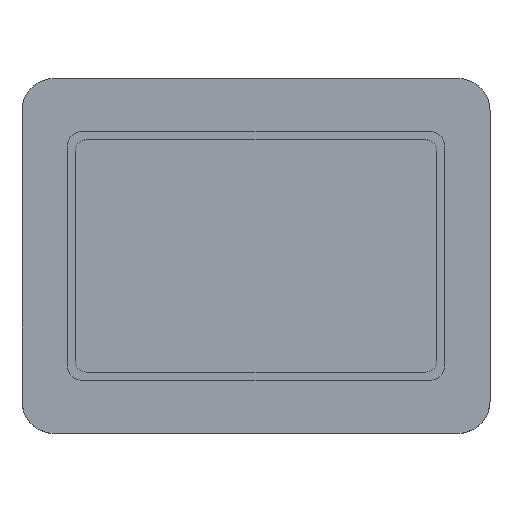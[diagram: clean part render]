
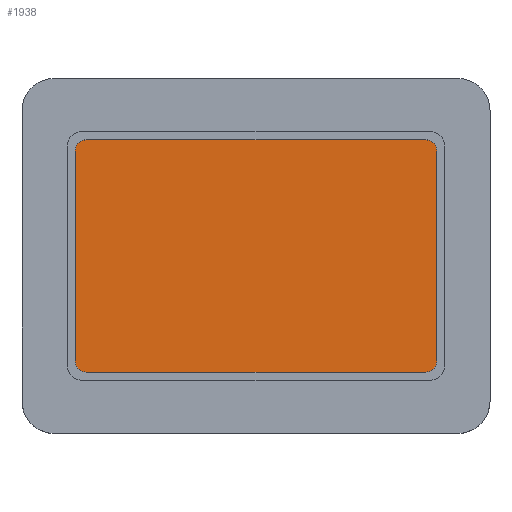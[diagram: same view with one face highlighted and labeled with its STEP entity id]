
A CAD part, top view. The second image highlights one B-rep face of the part: STEP entity #1938.
In plain terms, the highlighted planar face has unit normal (0, 0, 1).
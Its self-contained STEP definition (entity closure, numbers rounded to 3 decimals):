
#1331 = PLANE('',#1332);
#1332 = AXIS2_PLACEMENT_3D('',#1333,#1334,#1335);
#1333 = CARTESIAN_POINT('',(-11.2,-7.2,28.7));
#1334 = DIRECTION('',(0.,1.,0.));
#1335 = DIRECTION('',(1.,0.,0.));
#1359 = CYLINDRICAL_SURFACE('',#1360,0.7);
#1360 = AXIS2_PLACEMENT_3D('',#1361,#1362,#1363);
#1361 = CARTESIAN_POINT('',(-10.5,-6.5,28.7));
#1362 = DIRECTION('',(0.,0.,1.));
#1363 = DIRECTION('',(0.,-1.,0.));
#1386 = PLANE('',#1387);
#1387 = AXIS2_PLACEMENT_3D('',#1388,#1389,#1390);
#1388 = CARTESIAN_POINT('',(-11.2,7.2,28.7));
#1389 = DIRECTION('',(1.,0.,-0.));
#1390 = DIRECTION('',(0.,-1.,0.));
#1414 = CYLINDRICAL_SURFACE('',#1415,0.7);
#1415 = AXIS2_PLACEMENT_3D('',#1416,#1417,#1418);
#1416 = CARTESIAN_POINT('',(-10.5,6.5,28.7));
#1417 = DIRECTION('',(0.,0.,1.));
#1418 = DIRECTION('',(-0.,1.,0.));
#1441 = PLANE('',#1442);
#1442 = AXIS2_PLACEMENT_3D('',#1443,#1444,#1445);
#1443 = CARTESIAN_POINT('',(11.2,7.2,28.7));
#1444 = DIRECTION('',(0.,-1.,0.));
#1445 = DIRECTION('',(-1.,0.,0.));
#1469 = CYLINDRICAL_SURFACE('',#1470,0.7);
#1470 = AXIS2_PLACEMENT_3D('',#1471,#1472,#1473);
#1471 = CARTESIAN_POINT('',(10.5,6.5,28.7));
#1472 = DIRECTION('',(0.,0.,1.));
#1473 = DIRECTION('',(1.,0.,-0.));
#1496 = PLANE('',#1497);
#1497 = AXIS2_PLACEMENT_3D('',#1498,#1499,#1500);
#1498 = CARTESIAN_POINT('',(11.2,-7.2,28.7));
#1499 = DIRECTION('',(-1.,0.,0.));
#1500 = DIRECTION('',(0.,1.,0.));
#1522 = CYLINDRICAL_SURFACE('',#1523,0.7);
#1523 = AXIS2_PLACEMENT_3D('',#1524,#1525,#1526);
#1524 = CARTESIAN_POINT('',(10.5,-6.5,28.7));
#1525 = DIRECTION('',(0.,0.,1.));
#1526 = DIRECTION('',(0.,-1.,0.));
#1537 = EDGE_CURVE('',#1538,#1540,#1542,.T.);
#1538 = VERTEX_POINT('',#1539);
#1539 = CARTESIAN_POINT('',(-10.5,-7.2,28.7));
#1540 = VERTEX_POINT('',#1541);
#1541 = CARTESIAN_POINT('',(10.5,-7.2,28.7));
#1542 = SURFACE_CURVE('',#1543,(#1547,#1554),.PCURVE_S1.);
#1543 = LINE('',#1544,#1545);
#1544 = CARTESIAN_POINT('',(-11.2,-7.2,28.7));
#1545 = VECTOR('',#1546,1.);
#1546 = DIRECTION('',(1.,0.,0.));
#1547 = PCURVE('',#1331,#1548);
#1548 = DEFINITIONAL_REPRESENTATION('',(#1549),#1553);
#1549 = LINE('',#1550,#1551);
#1550 = CARTESIAN_POINT('',(0.,0.));
#1551 = VECTOR('',#1552,1.);
#1552 = DIRECTION('',(1.,0.));
#1553 = ( GEOMETRIC_REPRESENTATION_CONTEXT(2) 
PARAMETRIC_REPRESENTATION_CONTEXT() REPRESENTATION_CONTEXT('2D SPACE',''
  ) );
#1554 = PCURVE('',#1555,#1560);
#1555 = PLANE('',#1556);
#1556 = AXIS2_PLACEMENT_3D('',#1557,#1558,#1559);
#1557 = CARTESIAN_POINT('',(0.,0.,28.7));
#1558 = DIRECTION('',(0.,0.,1.));
#1559 = DIRECTION('',(1.,0.,-0.));
#1560 = DEFINITIONAL_REPRESENTATION('',(#1561),#1565);
#1561 = LINE('',#1562,#1563);
#1562 = CARTESIAN_POINT('',(-11.2,-7.2));
#1563 = VECTOR('',#1564,1.);
#1564 = DIRECTION('',(1.,0.));
#1565 = ( GEOMETRIC_REPRESENTATION_CONTEXT(2) 
PARAMETRIC_REPRESENTATION_CONTEXT() REPRESENTATION_CONTEXT('2D SPACE',''
  ) );
#1614 = EDGE_CURVE('',#1540,#1615,#1617,.T.);
#1615 = VERTEX_POINT('',#1616);
#1616 = CARTESIAN_POINT('',(11.2,-6.5,28.7));
#1617 = SURFACE_CURVE('',#1618,(#1623,#1630),.PCURVE_S1.);
#1618 = CIRCLE('',#1619,0.7);
#1619 = AXIS2_PLACEMENT_3D('',#1620,#1621,#1622);
#1620 = CARTESIAN_POINT('',(10.5,-6.5,28.7));
#1621 = DIRECTION('',(0.,0.,1.));
#1622 = DIRECTION('',(0.,-1.,0.));
#1623 = PCURVE('',#1522,#1624);
#1624 = DEFINITIONAL_REPRESENTATION('',(#1625),#1629);
#1625 = LINE('',#1626,#1627);
#1626 = CARTESIAN_POINT('',(0.,0.));
#1627 = VECTOR('',#1628,1.);
#1628 = DIRECTION('',(1.,0.));
#1629 = ( GEOMETRIC_REPRESENTATION_CONTEXT(2) 
PARAMETRIC_REPRESENTATION_CONTEXT() REPRESENTATION_CONTEXT('2D SPACE',''
  ) );
#1630 = PCURVE('',#1555,#1631);
#1631 = DEFINITIONAL_REPRESENTATION('',(#1632),#1636);
#1632 = CIRCLE('',#1633,0.7);
#1633 = AXIS2_PLACEMENT_2D('',#1634,#1635);
#1634 = CARTESIAN_POINT('',(10.5,-6.5));
#1635 = DIRECTION('',(0.,-1.));
#1636 = ( GEOMETRIC_REPRESENTATION_CONTEXT(2) 
PARAMETRIC_REPRESENTATION_CONTEXT() REPRESENTATION_CONTEXT('2D SPACE',''
  ) );
#1663 = EDGE_CURVE('',#1615,#1664,#1666,.T.);
#1664 = VERTEX_POINT('',#1665);
#1665 = CARTESIAN_POINT('',(11.2,6.5,28.7));
#1666 = SURFACE_CURVE('',#1667,(#1671,#1678),.PCURVE_S1.);
#1667 = LINE('',#1668,#1669);
#1668 = CARTESIAN_POINT('',(11.2,-7.2,28.7));
#1669 = VECTOR('',#1670,1.);
#1670 = DIRECTION('',(0.,1.,0.));
#1671 = PCURVE('',#1496,#1672);
#1672 = DEFINITIONAL_REPRESENTATION('',(#1673),#1677);
#1673 = LINE('',#1674,#1675);
#1674 = CARTESIAN_POINT('',(0.,0.));
#1675 = VECTOR('',#1676,1.);
#1676 = DIRECTION('',(1.,0.));
#1677 = ( GEOMETRIC_REPRESENTATION_CONTEXT(2) 
PARAMETRIC_REPRESENTATION_CONTEXT() REPRESENTATION_CONTEXT('2D SPACE',''
  ) );
#1678 = PCURVE('',#1555,#1679);
#1679 = DEFINITIONAL_REPRESENTATION('',(#1680),#1684);
#1680 = LINE('',#1681,#1682);
#1681 = CARTESIAN_POINT('',(11.2,-7.2));
#1682 = VECTOR('',#1683,1.);
#1683 = DIRECTION('',(0.,1.));
#1684 = ( GEOMETRIC_REPRESENTATION_CONTEXT(2) 
PARAMETRIC_REPRESENTATION_CONTEXT() REPRESENTATION_CONTEXT('2D SPACE',''
  ) );
#1713 = EDGE_CURVE('',#1664,#1714,#1716,.T.);
#1714 = VERTEX_POINT('',#1715);
#1715 = CARTESIAN_POINT('',(10.5,7.2,28.7));
#1716 = SURFACE_CURVE('',#1717,(#1722,#1729),.PCURVE_S1.);
#1717 = CIRCLE('',#1718,0.7);
#1718 = AXIS2_PLACEMENT_3D('',#1719,#1720,#1721);
#1719 = CARTESIAN_POINT('',(10.5,6.5,28.7));
#1720 = DIRECTION('',(0.,0.,1.));
#1721 = DIRECTION('',(0.,-1.,0.));
#1722 = PCURVE('',#1469,#1723);
#1723 = DEFINITIONAL_REPRESENTATION('',(#1724),#1728);
#1724 = LINE('',#1725,#1726);
#1725 = CARTESIAN_POINT('',(-1.571,0.));
#1726 = VECTOR('',#1727,1.);
#1727 = DIRECTION('',(1.,0.));
#1728 = ( GEOMETRIC_REPRESENTATION_CONTEXT(2) 
PARAMETRIC_REPRESENTATION_CONTEXT() REPRESENTATION_CONTEXT('2D SPACE',''
  ) );
#1729 = PCURVE('',#1555,#1730);
#1730 = DEFINITIONAL_REPRESENTATION('',(#1731),#1735);
#1731 = CIRCLE('',#1732,0.7);
#1732 = AXIS2_PLACEMENT_2D('',#1733,#1734);
#1733 = CARTESIAN_POINT('',(10.5,6.5));
#1734 = DIRECTION('',(0.,-1.));
#1735 = ( GEOMETRIC_REPRESENTATION_CONTEXT(2) 
PARAMETRIC_REPRESENTATION_CONTEXT() REPRESENTATION_CONTEXT('2D SPACE',''
  ) );
#1762 = EDGE_CURVE('',#1714,#1763,#1765,.T.);
#1763 = VERTEX_POINT('',#1764);
#1764 = CARTESIAN_POINT('',(-10.5,7.2,28.7));
#1765 = SURFACE_CURVE('',#1766,(#1770,#1777),.PCURVE_S1.);
#1766 = LINE('',#1767,#1768);
#1767 = CARTESIAN_POINT('',(11.2,7.2,28.7));
#1768 = VECTOR('',#1769,1.);
#1769 = DIRECTION('',(-1.,0.,0.));
#1770 = PCURVE('',#1441,#1771);
#1771 = DEFINITIONAL_REPRESENTATION('',(#1772),#1776);
#1772 = LINE('',#1773,#1774);
#1773 = CARTESIAN_POINT('',(0.,-0.));
#1774 = VECTOR('',#1775,1.);
#1775 = DIRECTION('',(1.,0.));
#1776 = ( GEOMETRIC_REPRESENTATION_CONTEXT(2) 
PARAMETRIC_REPRESENTATION_CONTEXT() REPRESENTATION_CONTEXT('2D SPACE',''
  ) );
#1777 = PCURVE('',#1555,#1778);
#1778 = DEFINITIONAL_REPRESENTATION('',(#1779),#1783);
#1779 = LINE('',#1780,#1781);
#1780 = CARTESIAN_POINT('',(11.2,7.2));
#1781 = VECTOR('',#1782,1.);
#1782 = DIRECTION('',(-1.,0.));
#1783 = ( GEOMETRIC_REPRESENTATION_CONTEXT(2) 
PARAMETRIC_REPRESENTATION_CONTEXT() REPRESENTATION_CONTEXT('2D SPACE',''
  ) );
#1812 = EDGE_CURVE('',#1763,#1813,#1815,.T.);
#1813 = VERTEX_POINT('',#1814);
#1814 = CARTESIAN_POINT('',(-11.2,6.5,28.7));
#1815 = SURFACE_CURVE('',#1816,(#1821,#1828),.PCURVE_S1.);
#1816 = CIRCLE('',#1817,0.7);
#1817 = AXIS2_PLACEMENT_3D('',#1818,#1819,#1820);
#1818 = CARTESIAN_POINT('',(-10.5,6.5,28.7));
#1819 = DIRECTION('',(0.,0.,1.));
#1820 = DIRECTION('',(0.,-1.,0.));
#1821 = PCURVE('',#1414,#1822);
#1822 = DEFINITIONAL_REPRESENTATION('',(#1823),#1827);
#1823 = LINE('',#1824,#1825);
#1824 = CARTESIAN_POINT('',(-3.142,0.));
#1825 = VECTOR('',#1826,1.);
#1826 = DIRECTION('',(1.,0.));
#1827 = ( GEOMETRIC_REPRESENTATION_CONTEXT(2) 
PARAMETRIC_REPRESENTATION_CONTEXT() REPRESENTATION_CONTEXT('2D SPACE',''
  ) );
#1828 = PCURVE('',#1555,#1829);
#1829 = DEFINITIONAL_REPRESENTATION('',(#1830),#1834);
#1830 = CIRCLE('',#1831,0.7);
#1831 = AXIS2_PLACEMENT_2D('',#1832,#1833);
#1832 = CARTESIAN_POINT('',(-10.5,6.5));
#1833 = DIRECTION('',(0.,-1.));
#1834 = ( GEOMETRIC_REPRESENTATION_CONTEXT(2) 
PARAMETRIC_REPRESENTATION_CONTEXT() REPRESENTATION_CONTEXT('2D SPACE',''
  ) );
#1861 = EDGE_CURVE('',#1813,#1862,#1864,.T.);
#1862 = VERTEX_POINT('',#1863);
#1863 = CARTESIAN_POINT('',(-11.2,-6.5,28.7));
#1864 = SURFACE_CURVE('',#1865,(#1869,#1876),.PCURVE_S1.);
#1865 = LINE('',#1866,#1867);
#1866 = CARTESIAN_POINT('',(-11.2,7.2,28.7));
#1867 = VECTOR('',#1868,1.);
#1868 = DIRECTION('',(0.,-1.,0.));
#1869 = PCURVE('',#1386,#1870);
#1870 = DEFINITIONAL_REPRESENTATION('',(#1871),#1875);
#1871 = LINE('',#1872,#1873);
#1872 = CARTESIAN_POINT('',(0.,0.));
#1873 = VECTOR('',#1874,1.);
#1874 = DIRECTION('',(1.,0.));
#1875 = ( GEOMETRIC_REPRESENTATION_CONTEXT(2) 
PARAMETRIC_REPRESENTATION_CONTEXT() REPRESENTATION_CONTEXT('2D SPACE',''
  ) );
#1876 = PCURVE('',#1555,#1877);
#1877 = DEFINITIONAL_REPRESENTATION('',(#1878),#1882);
#1878 = LINE('',#1879,#1880);
#1879 = CARTESIAN_POINT('',(-11.2,7.2));
#1880 = VECTOR('',#1881,1.);
#1881 = DIRECTION('',(0.,-1.));
#1882 = ( GEOMETRIC_REPRESENTATION_CONTEXT(2) 
PARAMETRIC_REPRESENTATION_CONTEXT() REPRESENTATION_CONTEXT('2D SPACE',''
  ) );
#1911 = EDGE_CURVE('',#1538,#1862,#1912,.T.);
#1912 = SURFACE_CURVE('',#1913,(#1918,#1925),.PCURVE_S1.);
#1913 = CIRCLE('',#1914,0.7);
#1914 = AXIS2_PLACEMENT_3D('',#1915,#1916,#1917);
#1915 = CARTESIAN_POINT('',(-10.5,-6.5,28.7));
#1916 = DIRECTION('',(-0.,-0.,-1.));
#1917 = DIRECTION('',(0.,-1.,0.));
#1918 = PCURVE('',#1359,#1919);
#1919 = DEFINITIONAL_REPRESENTATION('',(#1920),#1924);
#1920 = LINE('',#1921,#1922);
#1921 = CARTESIAN_POINT('',(-0.,0.));
#1922 = VECTOR('',#1923,1.);
#1923 = DIRECTION('',(-1.,0.));
#1924 = ( GEOMETRIC_REPRESENTATION_CONTEXT(2) 
PARAMETRIC_REPRESENTATION_CONTEXT() REPRESENTATION_CONTEXT('2D SPACE',''
  ) );
#1925 = PCURVE('',#1555,#1926);
#1926 = DEFINITIONAL_REPRESENTATION('',(#1927),#1935);
#1927 = ( BOUNDED_CURVE() B_SPLINE_CURVE(2,(#1928,#1929,#1930,#1931,
#1932,#1933,#1934),.UNSPECIFIED.,.T.,.F.) B_SPLINE_CURVE_WITH_KNOTS((1,2
    ,2,2,2,1),(-2.094,0.,2.094,4.189,
6.283,8.378),.UNSPECIFIED.) CURVE() 
GEOMETRIC_REPRESENTATION_ITEM() RATIONAL_B_SPLINE_CURVE((1.,0.5,1.,0.5,
1.,0.5,1.)) REPRESENTATION_ITEM('') );
#1928 = CARTESIAN_POINT('',(-10.5,-7.2));
#1929 = CARTESIAN_POINT('',(-11.712,-7.2));
#1930 = CARTESIAN_POINT('',(-11.106,-6.15));
#1931 = CARTESIAN_POINT('',(-10.5,-5.1));
#1932 = CARTESIAN_POINT('',(-9.894,-6.15));
#1933 = CARTESIAN_POINT('',(-9.288,-7.2));
#1934 = CARTESIAN_POINT('',(-10.5,-7.2));
#1935 = ( GEOMETRIC_REPRESENTATION_CONTEXT(2) 
PARAMETRIC_REPRESENTATION_CONTEXT() REPRESENTATION_CONTEXT('2D SPACE',''
  ) );
#1938 = ADVANCED_FACE('',(#1939),#1555,.T.);
#1939 = FACE_BOUND('',#1940,.T.);
#1940 = EDGE_LOOP('',(#1941,#1942,#1943,#1944,#1945,#1946,#1947,#1948));
#1941 = ORIENTED_EDGE('',*,*,#1537,.T.);
#1942 = ORIENTED_EDGE('',*,*,#1614,.T.);
#1943 = ORIENTED_EDGE('',*,*,#1663,.T.);
#1944 = ORIENTED_EDGE('',*,*,#1713,.T.);
#1945 = ORIENTED_EDGE('',*,*,#1762,.T.);
#1946 = ORIENTED_EDGE('',*,*,#1812,.T.);
#1947 = ORIENTED_EDGE('',*,*,#1861,.T.);
#1948 = ORIENTED_EDGE('',*,*,#1911,.F.);
